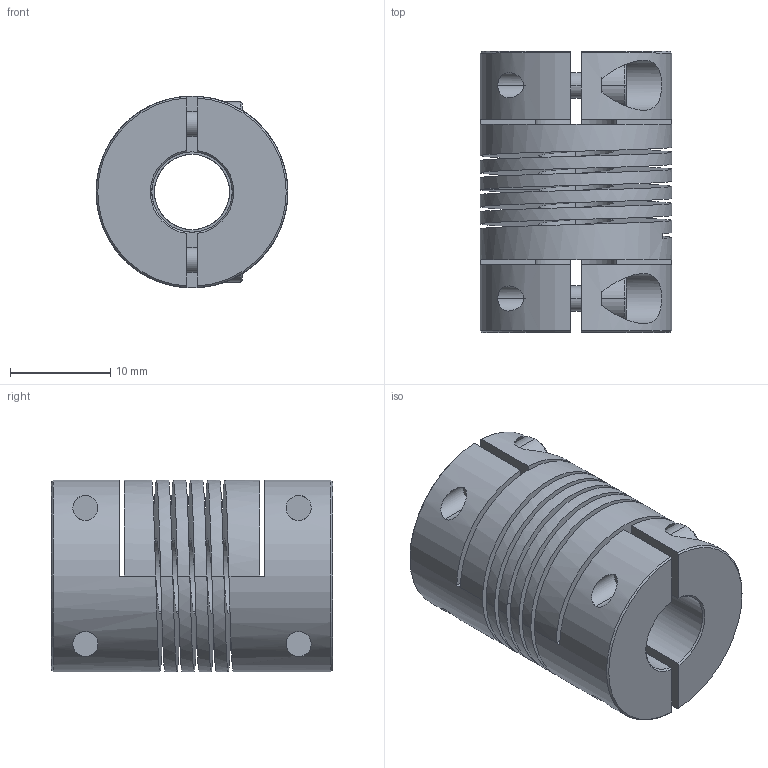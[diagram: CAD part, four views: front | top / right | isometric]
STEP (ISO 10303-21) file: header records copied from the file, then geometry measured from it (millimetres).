
FILE_DESCRIPTION((''),'2;1');
FILE_NAME('821_19','2006-12-13T',('garym'),(''),'PRO/ENGINEER BY PARAMETRIC TECHNOLOGY CORPORATION, 2006010','PRO/ENGINEER BY PARAMETRIC TECHNOLOGY CORPORATION, 2006010','');
FILE_SCHEMA(('CONFIG_CONTROL_DESIGN'));
Length unit declared in the file: millimetre
Products named in the file (1): 821_19
Bounding box: 19.1 x 28 x 19.1 mm (x, y, z)
Volume: 5584 mm3; surface area: 6224.5 mm2
Topology: 1 solids, 1 shells, 143 faces, 365 edges, 238 vertices
Faces by surface type: plane 68, cylinder 55, cone 16, bspline 4
Entity records: 5880 total; most frequent: CARTESIAN_POINT 2429, ORIENTED_EDGE 730, DIRECTION 657, EDGE_CURVE 365, VERTEX_POINT 238, AXIS2_PLACEMENT_3D 231, VECTOR 195, LINE 195
